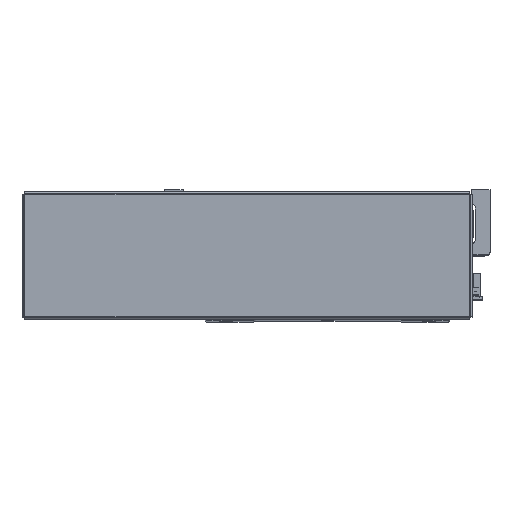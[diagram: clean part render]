
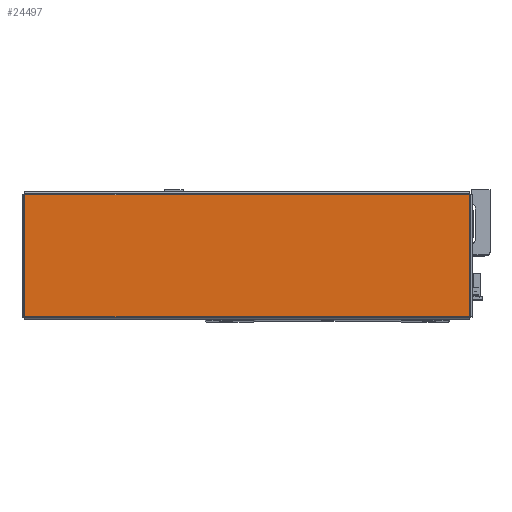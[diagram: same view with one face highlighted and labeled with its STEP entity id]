
A CAD part, top view. The second image highlights one B-rep face of the part: STEP entity #24497.
In plain terms, the highlighted planar face has unit normal (0, 0, 1) as drawn and (0, -1, 0) by its records, which use the part's own axes.
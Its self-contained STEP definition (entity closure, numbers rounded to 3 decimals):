
#6684 = CARTESIAN_POINT ( 'NONE',  ( 154.013, -1.2, 42.263 ) ) ;
#6708 = CARTESIAN_POINT ( 'NONE',  ( -154.013, -1.2, 42.263 ) ) ;
#6799 = CARTESIAN_POINT ( 'NONE',  ( 154.013, -1.2, -42.263 ) ) ;
#6894 = CARTESIAN_POINT ( 'NONE',  ( -154.013, -1.2, -42.263 ) ) ;
#8271 = VERTEX_POINT ( 'NONE', #6799 ) ;
#8280 = VERTEX_POINT ( 'NONE', #6708 ) ;
#8284 = VERTEX_POINT ( 'NONE', #6684 ) ;
#8288 = VERTEX_POINT ( 'NONE', #6894 ) ;
#11724 = ORIENTED_EDGE ( 'NONE', *, *, #42551, .T. ) ;
#11735 = ORIENTED_EDGE ( 'NONE', *, *, #42607, .T. ) ;
#11737 = ORIENTED_EDGE ( 'NONE', *, *, #42523, .T. ) ;
#11741 = ORIENTED_EDGE ( 'NONE', *, *, #42492, .T. ) ;
#17002 = FACE_OUTER_BOUND ( 'NONE', #21122, .T. ) ;
#18597 = DIRECTION ( 'NONE',  ( 0., 1., 0. ) ) ;
#18637 = PLANE ( 'NONE',  #35632 ) ;
#18638 = DIRECTION ( 'NONE',  ( 0., 0., 1. ) ) ;
#18639 = CARTESIAN_POINT ( 'NONE',  ( 0., -1.2, 0. ) ) ;
#21122 = EDGE_LOOP ( 'NONE', ( #11724, #11741, #11735, #11737 ) ) ;
#24497 = ADVANCED_FACE ( 'NONE', ( #17002 ), #18637, .F. ) ;
#35632 = AXIS2_PLACEMENT_3D ( 'NONE', #18639, #18597, #18638 ) ;
#37859 = LINE ( 'NONE', #47041, #37865 ) ;
#37865 = VECTOR ( 'NONE', #47042, 1000. ) ;
#37869 = LINE ( 'NONE', #47120, #37882 ) ;
#37882 = VECTOR ( 'NONE', #47122, 1000. ) ;
#37927 = LINE ( 'NONE', #38348, #37941 ) ;
#37941 = VECTOR ( 'NONE', #38357, 1000. ) ;
#38015 = VECTOR ( 'NONE', #38505, 1000. ) ;
#38050 = LINE ( 'NONE', #38487, #38015 ) ;
#38348 = CARTESIAN_POINT ( 'NONE',  ( 154.013, -1.2, -42.293 ) ) ;
#38357 = DIRECTION ( 'NONE',  ( 0., 0., 1. ) ) ;
#38487 = CARTESIAN_POINT ( 'NONE',  ( -154.013, -1.2, 42.293 ) ) ;
#38505 = DIRECTION ( 'NONE',  ( 0., 0., -1. ) ) ;
#42492 = EDGE_CURVE ( 'NONE', #8284, #8280, #37859, .T. ) ;
#42523 = EDGE_CURVE ( 'NONE', #8288, #8271, #37869, .T. ) ;
#42551 = EDGE_CURVE ( 'NONE', #8271, #8284, #37927, .T. ) ;
#42607 = EDGE_CURVE ( 'NONE', #8280, #8288, #38050, .T. ) ;
#47041 = CARTESIAN_POINT ( 'NONE',  ( 154.043, -1.2, 42.263 ) ) ;
#47042 = DIRECTION ( 'NONE',  ( -1., 0., 0. ) ) ;
#47120 = CARTESIAN_POINT ( 'NONE',  ( -154.043, -1.2, -42.263 ) ) ;
#47122 = DIRECTION ( 'NONE',  ( 1., 0., 0. ) ) ;
